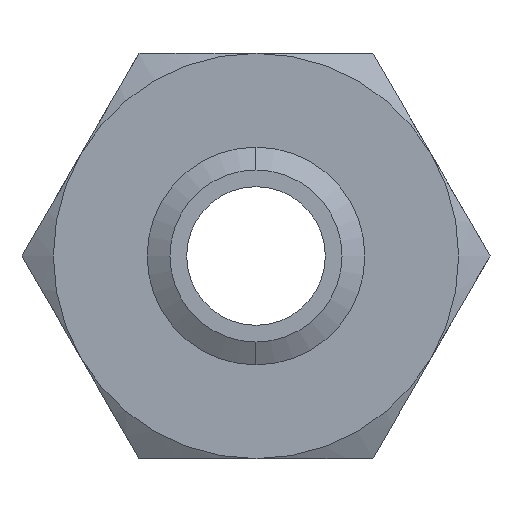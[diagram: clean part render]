
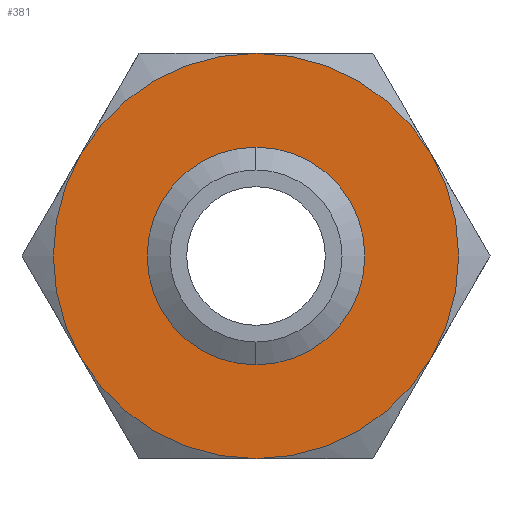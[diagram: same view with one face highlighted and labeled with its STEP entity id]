
A CAD part, front view. The second image highlights one B-rep face of the part: STEP entity #381.
In plain terms, the highlighted planar face has unit normal (0, -1, 0).
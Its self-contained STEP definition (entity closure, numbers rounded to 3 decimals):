
#61 = EDGE_CURVE ( 'NONE', #62, #63, #697, .T. ) ;
#62 = VERTEX_POINT ( 'NONE', #690 ) ;
#63 = VERTEX_POINT ( 'NONE', #689 ) ;
#376 = EDGE_CURVE ( 'NONE', #63, #62, #1241, .T. ) ;
#380 = VERTEX_POINT ( 'NONE', #1242 ) ;
#381 = ADVANCED_FACE ( 'NONE', ( #1236, #1235 ), #1234, .F. ) ;
#382 = ORIENTED_EDGE ( 'NONE', *, *, #383, .F. ) ;
#383 = EDGE_CURVE ( 'NONE', #384, #395, #1229, .T. ) ;
#384 = VERTEX_POINT ( 'NONE', #1224 ) ;
#385 = EDGE_CURVE ( 'NONE', #391, #384, #1286, .T. ) ;
#386 = ORIENTED_EDGE ( 'NONE', *, *, #435, .F. ) ;
#387 = ORIENTED_EDGE ( 'NONE', *, *, #385, .F. ) ;
#388 = EDGE_CURVE ( 'NONE', #395, #389, #1281, .T. ) ;
#389 = VERTEX_POINT ( 'NONE', #1276 ) ;
#391 = VERTEX_POINT ( 'NONE', #1271 ) ;
#392 = EDGE_LOOP ( 'NONE', ( #394, #382, #387, #386, #434, #441 ) ) ;
#394 = ORIENTED_EDGE ( 'NONE', *, *, #388, .F. ) ;
#395 = VERTEX_POINT ( 'NONE', #1270 ) ;
#434 = ORIENTED_EDGE ( 'NONE', *, *, #458, .F. ) ;
#435 = EDGE_CURVE ( 'NONE', #451, #391, #1378, .T. ) ;
#437 = EDGE_CURVE ( 'NONE', #389, #380, #1365, .T. ) ;
#438 = EDGE_LOOP ( 'NONE', ( #442, #459 ) ) ;
#441 = ORIENTED_EDGE ( 'NONE', *, *, #437, .F. ) ;
#442 = ORIENTED_EDGE ( 'NONE', *, *, #61, .F. ) ;
#451 = VERTEX_POINT ( 'NONE', #1348 ) ;
#458 = EDGE_CURVE ( 'NONE', #380, #451, #1388, .T. ) ;
#459 = ORIENTED_EDGE ( 'NONE', *, *, #376, .F. ) ;
#689 = CARTESIAN_POINT ( 'NONE',  ( 0., 0., 13.802 ) ) ;
#690 = CARTESIAN_POINT ( 'NONE',  ( 0., 0., -13.802 ) ) ;
#691 = DIRECTION ( 'NONE',  ( 0., 0., -1. ) ) ;
#692 = DIRECTION ( 'NONE',  ( 0., -1., 0. ) ) ;
#693 = CARTESIAN_POINT ( 'NONE',  ( 0., 0., 0. ) ) ;
#694 = AXIS2_PLACEMENT_3D ( 'NONE', #693, #692, #691 ) ;
#697 = CIRCLE ( 'NONE', #694, 13.802 ) ;
#1224 = CARTESIAN_POINT ( 'NONE',  ( -28.146, 0., 16.25 ) ) ;
#1225 = DIRECTION ( 'NONE',  ( 0., 0., 1. ) ) ;
#1226 = DIRECTION ( 'NONE',  ( 0., 1., 0. ) ) ;
#1227 = CARTESIAN_POINT ( 'NONE',  ( 0., 0., 0. ) ) ;
#1228 = AXIS2_PLACEMENT_3D ( 'NONE', #1227, #1226, #1225 ) ;
#1229 = CIRCLE ( 'NONE', #1228, 32.5 ) ;
#1230 = DIRECTION ( 'NONE',  ( 0., 0., 1. ) ) ;
#1231 = DIRECTION ( 'NONE',  ( 0., 1., 0. ) ) ;
#1232 = CARTESIAN_POINT ( 'NONE',  ( 18.764, 0., -32.5 ) ) ;
#1233 = AXIS2_PLACEMENT_3D ( 'NONE', #1232, #1231, #1230 ) ;
#1234 = PLANE ( 'NONE',  #1233 ) ;
#1235 = FACE_BOUND ( 'NONE', #438, .T. ) ;
#1236 = FACE_OUTER_BOUND ( 'NONE', #392, .T. ) ;
#1237 = DIRECTION ( 'NONE',  ( 0., 0., -1. ) ) ;
#1238 = DIRECTION ( 'NONE',  ( 0., -1., 0. ) ) ;
#1239 = CARTESIAN_POINT ( 'NONE',  ( 0., 0., 0. ) ) ;
#1240 = AXIS2_PLACEMENT_3D ( 'NONE', #1239, #1238, #1237 ) ;
#1241 = CIRCLE ( 'NONE', #1240, 13.802 ) ;
#1242 = CARTESIAN_POINT ( 'NONE',  ( 28.146, 0., -16.25 ) ) ;
#1270 = CARTESIAN_POINT ( 'NONE',  ( 0., 0., 32.5 ) ) ;
#1271 = CARTESIAN_POINT ( 'NONE',  ( -28.146, 0., -16.25 ) ) ;
#1276 = CARTESIAN_POINT ( 'NONE',  ( 28.146, 0., 16.25 ) ) ;
#1277 = DIRECTION ( 'NONE',  ( 0., 0., 1. ) ) ;
#1278 = DIRECTION ( 'NONE',  ( 0., 1., 0. ) ) ;
#1279 = CARTESIAN_POINT ( 'NONE',  ( 0., 0., 0. ) ) ;
#1280 = AXIS2_PLACEMENT_3D ( 'NONE', #1279, #1278, #1277 ) ;
#1281 = CIRCLE ( 'NONE', #1280, 32.5 ) ;
#1282 = DIRECTION ( 'NONE',  ( 0., 0., 1. ) ) ;
#1283 = DIRECTION ( 'NONE',  ( 0., 1., 0. ) ) ;
#1284 = CARTESIAN_POINT ( 'NONE',  ( 0., 0., 0. ) ) ;
#1285 = AXIS2_PLACEMENT_3D ( 'NONE', #1284, #1283, #1282 ) ;
#1286 = CIRCLE ( 'NONE', #1285, 32.5 ) ;
#1348 = CARTESIAN_POINT ( 'NONE',  ( 0., 0., -32.5 ) ) ;
#1362 = DIRECTION ( 'NONE',  ( 0., 0., 1. ) ) ;
#1363 = DIRECTION ( 'NONE',  ( 0., 1., 0. ) ) ;
#1364 = AXIS2_PLACEMENT_3D ( 'NONE', #1369, #1363, #1362 ) ;
#1365 = CIRCLE ( 'NONE', #1364, 32.5 ) ;
#1369 = CARTESIAN_POINT ( 'NONE',  ( 0., 0., 0. ) ) ;
#1374 = DIRECTION ( 'NONE',  ( 0., 0., 1. ) ) ;
#1375 = DIRECTION ( 'NONE',  ( 0., 1., 0. ) ) ;
#1376 = CARTESIAN_POINT ( 'NONE',  ( 0., 0., 0. ) ) ;
#1377 = AXIS2_PLACEMENT_3D ( 'NONE', #1376, #1375, #1374 ) ;
#1378 = CIRCLE ( 'NONE', #1377, 32.5 ) ;
#1384 = DIRECTION ( 'NONE',  ( 0., 0., 1. ) ) ;
#1385 = DIRECTION ( 'NONE',  ( 0., 1., 0. ) ) ;
#1386 = CARTESIAN_POINT ( 'NONE',  ( 0., 0., 0. ) ) ;
#1387 = AXIS2_PLACEMENT_3D ( 'NONE', #1386, #1385, #1384 ) ;
#1388 = CIRCLE ( 'NONE', #1387, 32.5 ) ;
